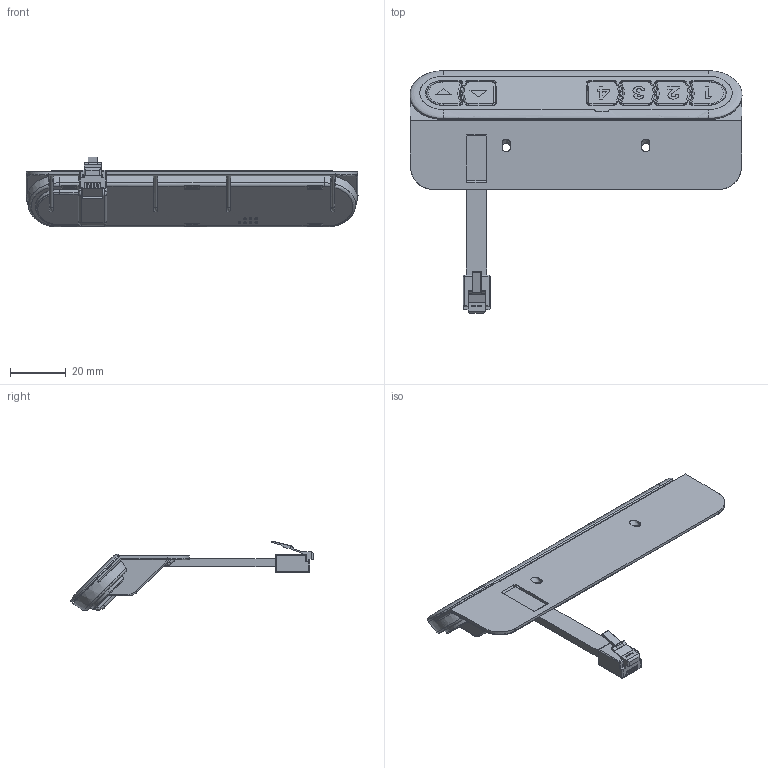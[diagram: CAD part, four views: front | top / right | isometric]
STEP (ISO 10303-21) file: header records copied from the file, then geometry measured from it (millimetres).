
FILE_DESCRIPTION (( 'STEP AP214' ), '1' );
FILE_NAME ('09810225_Memory-HS_LD6LC.stp', '2023-03-16T13:10:22', ( '' ), ( '' ), 'SwSTEP 2.0', 'SolidWorks 2022', '' );
FILE_SCHEMA (( 'AUTOMOTIVE_DESIGN' ));
Length unit declared in the file: millimetre
Products named in the file (3): RJ12_Stecker; 09810225_Memory_HS_LD6LC_neu; 09810225_Memory-HS_LD6LC
Assembly tree (2 placements, depth 2):
  09810225_Memory-HS_LD6LC
    09810225_Memory_HS_LD6LC_neu
    RJ12_Stecker
Bounding box: 119 x 86.89 x 25.04 mm (x, y, z)
Volume: 39414.3 mm3; surface area: 39666.7 mm2
Topology: 31 solids, 32 shells, 1576 faces, 4163 edges, 2656 vertices
Faces by surface type: plane 898, cylinder 345, bspline 112, cone 109, torus 104, sphere 8
Entity records: 72183 total; most frequent: CARTESIAN_POINT 24124, ORIENTED_EDGE 8310, DIRECTION 5484, EDGE_CURVE 4155, VERTEX_POINT 2656, B_SPLINE_CURVE_WITH_KNOTS 2024, AXIS2_PLACEMENT_3D 1948, EDGE_LOOP 1653
